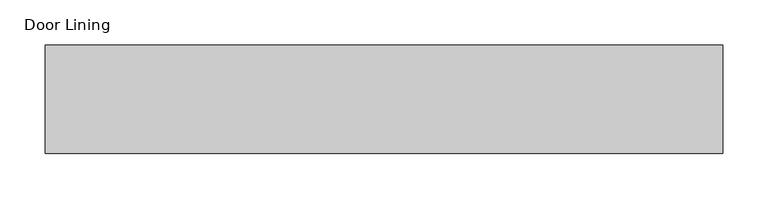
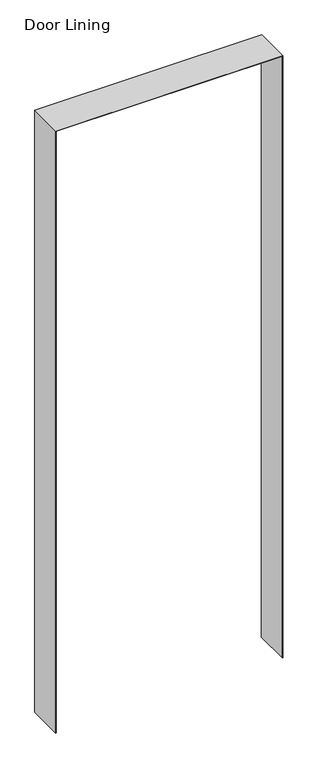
"""IFC4 building model written with IfcOpenShell, lengths in millimetres: proxy geometry, Dafa_ExFoil_Lining_Foil 2 x double adhesive : Door Lining."""

from ifc_helpers import new_model, si_unit, frame, origin, place, context, project, spatial, polyline, outline, extrude, source, transform, mapped, element, save


def door_lining_9c8101e2(model_context):
    return source(origin(), model_context, "Body", "SweptSolid", [
        extrude(outline(polyline([(2100.0, 375.0), (2100.0, -375.0), (0.0, -375.0), (0.0, -374.0), (2099.0, -374.0), (2099.0, 374.0), (0.0, 374.0), (0.0, 375.0), (2100.0, 375.0)])), frame((0.0, 0.0, 0.0), z_axis=(0.0, 1.0, 0.0), x_axis=(0.0, 0.0, 1.0)), (0.0, 0.0, 1.0), 120.0),
    ])


if __name__ == "__main__":
    model = new_model("IFC4")
    model_context = context("Model", 3, world=origin())
    ifc_project = project(units=[si_unit("LENGTHUNIT", "METRE", prefix="MILLI")], contexts=[model_context])
    site = spatial("IfcSite", under=ifc_project)
    building = spatial("IfcBuilding", under=site)
    placement = place(None, origin())
    door_lining_shape = door_lining_9c8101e2(model_context)
    element("IfcBuildingElementProxy", 1, Name="Dafa_ExFoil_Lining_Foil 2 x double adhesive : Door Lining", ObjectType="Dafa_ExFoil_Lining_Foil 2 x double adhesive : Door Lining", at=placement, inside=building, context=model_context, shape_type="MappedRepresentation", body=[
        mapped(door_lining_shape, transform((0.0, 0.0, 0.0), x_axis=(1.0, 0.0, 0.0), y_axis=(0.0, 1.0, 0.0), z_axis=(0.0, 0.0, 1.0))),
    ])
    save(model, "model.ifc")
